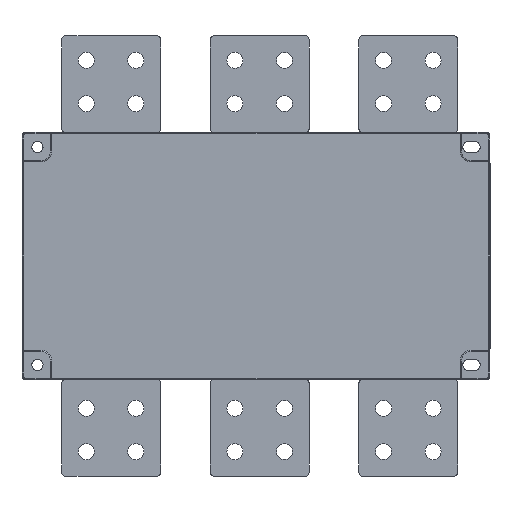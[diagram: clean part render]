
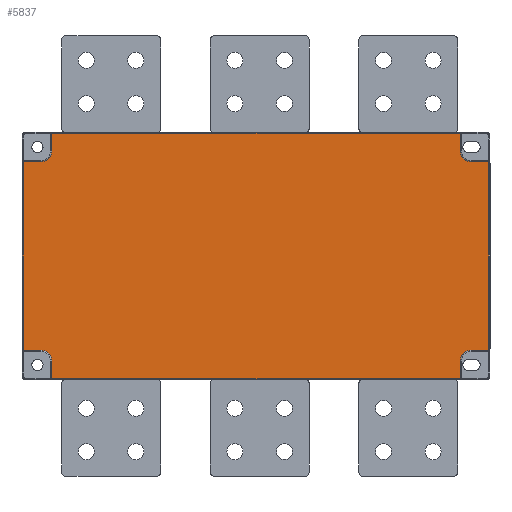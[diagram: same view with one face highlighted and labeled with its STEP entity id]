
A CAD part, front view. The second image highlights one B-rep face of the part: STEP entity #5837.
In plain terms, the highlighted planar face has unit normal (0, -1, 0).
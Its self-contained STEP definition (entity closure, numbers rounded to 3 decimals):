
#2632=DIRECTION('',(0.,0.,1.));
#2633=VECTOR('',#2632,14.);
#2634=CARTESIAN_POINT('',(-165.,0.,-99.));
#2635=LINE('',#2634,#2633);
#2636=CARTESIAN_POINT('',(-174.,0.,-85.));
#2637=DIRECTION('',(0.,-1.,0.));
#2638=DIRECTION('',(1.,0.,0.));
#2639=AXIS2_PLACEMENT_3D('',#2636,#2637,#2638);
#2641=DIRECTION('',(1.,0.,0.));
#2642=VECTOR('',#2641,14.);
#2643=CARTESIAN_POINT('',(-188.,0.,76.));
#2644=LINE('',#2643,#2642);
#2645=CARTESIAN_POINT('',(-174.,0.,85.));
#2646=DIRECTION('',(0.,-1.,0.));
#2647=DIRECTION('',(0.,0.,-1.));
#2648=AXIS2_PLACEMENT_3D('',#2645,#2646,#2647);
#2650=DIRECTION('',(0.,0.,-1.));
#2651=VECTOR('',#2650,14.);
#2652=CARTESIAN_POINT('',(165.,0.,99.));
#2653=LINE('',#2652,#2651);
#2654=CARTESIAN_POINT('',(174.,0.,85.));
#2655=DIRECTION('',(0.,-1.,0.));
#2656=DIRECTION('',(-1.,0.,0.));
#2657=AXIS2_PLACEMENT_3D('',#2654,#2655,#2656);
#2659=DIRECTION('',(-1.,0.,0.));
#2660=VECTOR('',#2659,14.);
#2661=CARTESIAN_POINT('',(188.,0.,-76.));
#2662=LINE('',#2661,#2660);
#2663=CARTESIAN_POINT('',(174.,0.,-85.));
#2664=DIRECTION('',(0.,-1.,0.));
#2665=DIRECTION('',(0.,0.,1.));
#2666=AXIS2_PLACEMENT_3D('',#2663,#2664,#2665);
#2680=DIRECTION('',(1.,0.,0.));
#2681=VECTOR('',#2680,330.);
#2682=CARTESIAN_POINT('',(-165.,0.,-99.));
#2683=LINE('',#2682,#2681);
#3811=DIRECTION('',(-1.,0.,0.));
#3812=VECTOR('',#3811,14.);
#3813=CARTESIAN_POINT('',(188.,0.,76.));
#3814=LINE('',#3813,#3812);
#3835=DIRECTION('',(0.,0.,1.));
#3836=VECTOR('',#3835,152.);
#3837=CARTESIAN_POINT('',(188.,0.,-76.));
#3838=LINE('',#3837,#3836);
#3901=DIRECTION('',(0.,0.,1.));
#3902=VECTOR('',#3901,14.);
#3903=CARTESIAN_POINT('',(165.,0.,-99.));
#3904=LINE('',#3903,#3902);
#4161=DIRECTION('',(-1.,0.,0.));
#4162=VECTOR('',#4161,330.);
#4163=CARTESIAN_POINT('',(165.,0.,99.));
#4164=LINE('',#4163,#4162);
#4181=DIRECTION('',(0.,0.,-1.));
#4182=VECTOR('',#4181,14.);
#4183=CARTESIAN_POINT('',(-165.,0.,99.));
#4184=LINE('',#4183,#4182);
#4259=DIRECTION('',(0.,0.,-1.));
#4260=VECTOR('',#4259,152.);
#4261=CARTESIAN_POINT('',(-188.,0.,76.));
#4262=LINE('',#4261,#4260);
#4279=DIRECTION('',(1.,0.,0.));
#4280=VECTOR('',#4279,14.);
#4281=CARTESIAN_POINT('',(-188.,0.,-76.));
#4282=LINE('',#4281,#4280);
#5096=CARTESIAN_POINT('',(-165.,0.,-99.));
#5097=CARTESIAN_POINT('',(165.,0.,-99.));
#5098=VERTEX_POINT('',#5096);
#5099=VERTEX_POINT('',#5097);
#5100=CARTESIAN_POINT('',(-165.,0.,-85.));
#5101=VERTEX_POINT('',#5100);
#5102=CARTESIAN_POINT('',(-174.,0.,-76.));
#5103=VERTEX_POINT('',#5102);
#5104=CARTESIAN_POINT('',(-188.,0.,-76.));
#5105=VERTEX_POINT('',#5104);
#5106=CARTESIAN_POINT('',(-188.,0.,76.));
#5107=VERTEX_POINT('',#5106);
#5108=CARTESIAN_POINT('',(-174.,0.,76.));
#5109=VERTEX_POINT('',#5108);
#5110=CARTESIAN_POINT('',(-165.,0.,85.));
#5111=VERTEX_POINT('',#5110);
#5112=CARTESIAN_POINT('',(-165.,0.,99.));
#5113=VERTEX_POINT('',#5112);
#5114=CARTESIAN_POINT('',(165.,0.,99.));
#5115=VERTEX_POINT('',#5114);
#5116=CARTESIAN_POINT('',(165.,0.,85.));
#5117=VERTEX_POINT('',#5116);
#5118=CARTESIAN_POINT('',(174.,0.,76.));
#5119=VERTEX_POINT('',#5118);
#5120=CARTESIAN_POINT('',(188.,0.,76.));
#5121=VERTEX_POINT('',#5120);
#5122=CARTESIAN_POINT('',(188.,0.,-76.));
#5123=VERTEX_POINT('',#5122);
#5124=CARTESIAN_POINT('',(174.,0.,-76.));
#5125=VERTEX_POINT('',#5124);
#5126=CARTESIAN_POINT('',(165.,0.,-85.));
#5127=VERTEX_POINT('',#5126);
#5798=CARTESIAN_POINT('',(0.,0.,0.));
#5799=DIRECTION('',(0.,1.,0.));
#5800=DIRECTION('',(1.,0.,0.));
#5801=AXIS2_PLACEMENT_3D('',#5798,#5799,#5800);
#5802=PLANE('',#5801);
#5804=ORIENTED_EDGE('',*,*,#5803,.F.);
#5806=ORIENTED_EDGE('',*,*,#5805,.T.);
#5808=ORIENTED_EDGE('',*,*,#5807,.T.);
#5810=ORIENTED_EDGE('',*,*,#5809,.F.);
#5812=ORIENTED_EDGE('',*,*,#5811,.F.);
#5814=ORIENTED_EDGE('',*,*,#5813,.T.);
#5816=ORIENTED_EDGE('',*,*,#5815,.T.);
#5818=ORIENTED_EDGE('',*,*,#5817,.F.);
#5820=ORIENTED_EDGE('',*,*,#5819,.F.);
#5822=ORIENTED_EDGE('',*,*,#5821,.T.);
#5824=ORIENTED_EDGE('',*,*,#5823,.T.);
#5826=ORIENTED_EDGE('',*,*,#5825,.F.);
#5828=ORIENTED_EDGE('',*,*,#5827,.F.);
#5830=ORIENTED_EDGE('',*,*,#5829,.T.);
#5832=ORIENTED_EDGE('',*,*,#5831,.T.);
#5834=ORIENTED_EDGE('',*,*,#5833,.F.);
#5835=EDGE_LOOP('',(#5804,#5806,#5808,#5810,#5812,#5814,#5816,#5818,#5820,#5822,
#5824,#5826,#5828,#5830,#5832,#5834));
#5836=FACE_OUTER_BOUND('',#5835,.F.);
#2640=CIRCLE('',#2639,9.);
#2649=CIRCLE('',#2648,9.);
#2658=CIRCLE('',#2657,9.);
#2667=CIRCLE('',#2666,9.);
#5803=EDGE_CURVE('',#5098,#5099,#2683,.T.);
#5805=EDGE_CURVE('',#5098,#5101,#2635,.T.);
#5807=EDGE_CURVE('',#5101,#5103,#2640,.T.);
#5809=EDGE_CURVE('',#5105,#5103,#4282,.T.);
#5811=EDGE_CURVE('',#5107,#5105,#4262,.T.);
#5813=EDGE_CURVE('',#5107,#5109,#2644,.T.);
#5815=EDGE_CURVE('',#5109,#5111,#2649,.T.);
#5817=EDGE_CURVE('',#5113,#5111,#4184,.T.);
#5819=EDGE_CURVE('',#5115,#5113,#4164,.T.);
#5821=EDGE_CURVE('',#5115,#5117,#2653,.T.);
#5823=EDGE_CURVE('',#5117,#5119,#2658,.T.);
#5825=EDGE_CURVE('',#5121,#5119,#3814,.T.);
#5827=EDGE_CURVE('',#5123,#5121,#3838,.T.);
#5829=EDGE_CURVE('',#5123,#5125,#2662,.T.);
#5831=EDGE_CURVE('',#5125,#5127,#2667,.T.);
#5833=EDGE_CURVE('',#5099,#5127,#3904,.T.);
#5837=ADVANCED_FACE('',(#5836),#5802,.F.);
